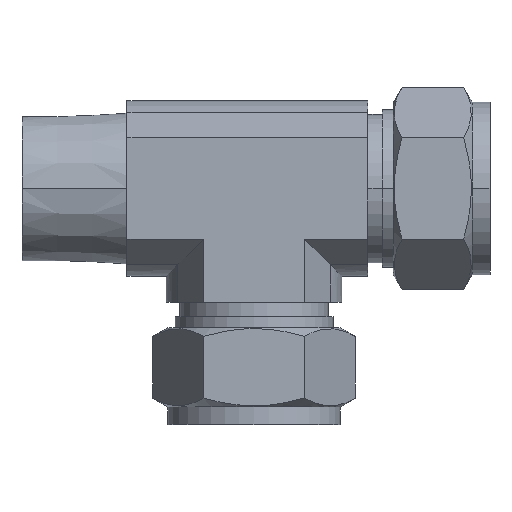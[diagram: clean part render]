
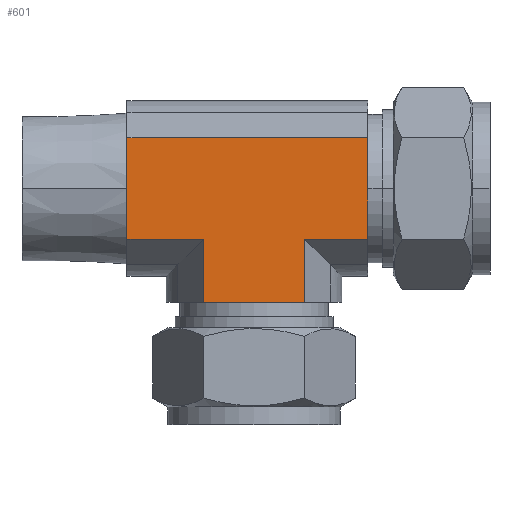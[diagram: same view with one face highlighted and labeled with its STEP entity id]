
A CAD part, top view. The second image highlights one B-rep face of the part: STEP entity #601.
In plain terms, the highlighted planar face has unit normal (0, 0, 1).
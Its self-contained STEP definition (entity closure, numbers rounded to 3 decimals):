
#132 = EDGE_LOOP ( 'NONE', ( #693, #691, #685, #537, #539, #495, #496, #497 ) ) ;
#446 = VERTEX_POINT ( 'NONE', #1947 ) ;
#448 = EDGE_CURVE ( 'NONE', #446, #449, #1946, .T. ) ;
#449 = VERTEX_POINT ( 'NONE', #1912 ) ;
#484 = VERTEX_POINT ( 'NONE', #2008 ) ;
#486 = EDGE_CURVE ( 'NONE', #484, #593, #2007, .T. ) ;
#495 = ORIENTED_EDGE ( 'NONE', *, *, #486, .F. ) ;
#496 = ORIENTED_EDGE ( 'NONE', *, *, #599, .T. ) ;
#497 = ORIENTED_EDGE ( 'NONE', *, *, #605, .F. ) ;
#524 = EDGE_CURVE ( 'NONE', #593, #639, #1938, .T. ) ;
#537 = ORIENTED_EDGE ( 'NONE', *, *, #538, .T. ) ;
#538 = EDGE_CURVE ( 'NONE', #446, #639, #1918, .T. ) ;
#539 = ORIENTED_EDGE ( 'NONE', *, *, #524, .F. ) ;
#593 = VERTEX_POINT ( 'NONE', #2090 ) ;
#599 = EDGE_CURVE ( 'NONE', #484, #606, #2144, .T. ) ;
#601 = ADVANCED_FACE ( 'NONE', ( #2140 ), #2139, .F. ) ;
#603 = VERTEX_POINT ( 'NONE', #2130 ) ;
#605 = EDGE_CURVE ( 'NONE', #603, #606, #2129, .T. ) ;
#606 = VERTEX_POINT ( 'NONE', #2125 ) ;
#639 = VERTEX_POINT ( 'NONE', #2040 ) ;
#660 = VERTEX_POINT ( 'NONE', #2164 ) ;
#663 = EDGE_CURVE ( 'NONE', #660, #603, #2158, .T. ) ;
#685 = ORIENTED_EDGE ( 'NONE', *, *, #448, .F. ) ;
#691 = ORIENTED_EDGE ( 'NONE', *, *, #692, .F. ) ;
#692 = EDGE_CURVE ( 'NONE', #449, #660, #2081, .T. ) ;
#693 = ORIENTED_EDGE ( 'NONE', *, *, #663, .F. ) ;
#1912 = CARTESIAN_POINT ( 'NONE',  ( -9.18, -20.6, 15.9 ) ) ;
#1913 = DIRECTION ( 'NONE',  ( -1., 0., 0. ) ) ;
#1915 = DIRECTION ( 'NONE',  ( 0., 1., 0. ) ) ;
#1916 = VECTOR ( 'NONE', #1915, 1000. ) ;
#1917 = CARTESIAN_POINT ( 'NONE',  ( 9.18, -20.6, 15.9 ) ) ;
#1918 = LINE ( 'NONE', #1917, #1916 ) ;
#1935 = DIRECTION ( 'NONE',  ( -1., 0., 0. ) ) ;
#1936 = VECTOR ( 'NONE', #1935, 1000. ) ;
#1937 = CARTESIAN_POINT ( 'NONE',  ( 20.6, -9.18, 15.9 ) ) ;
#1938 = LINE ( 'NONE', #1937, #1936 ) ;
#1944 = VECTOR ( 'NONE', #1913, 1000. ) ;
#1945 = CARTESIAN_POINT ( 'NONE',  ( 9.18, -20.6, 15.9 ) ) ;
#1946 = LINE ( 'NONE', #1945, #1944 ) ;
#1947 = CARTESIAN_POINT ( 'NONE',  ( 9.18, -20.6, 15.9 ) ) ;
#2004 = DIRECTION ( 'NONE',  ( 0., -1., 0. ) ) ;
#2005 = VECTOR ( 'NONE', #2004, 1000. ) ;
#2006 = CARTESIAN_POINT ( 'NONE',  ( 20.6, 9.18, 15.9 ) ) ;
#2007 = LINE ( 'NONE', #2006, #2005 ) ;
#2008 = CARTESIAN_POINT ( 'NONE',  ( 20.6, 9.18, 15.9 ) ) ;
#2040 = CARTESIAN_POINT ( 'NONE',  ( 9.18, -9.18, 15.9 ) ) ;
#2078 = DIRECTION ( 'NONE',  ( 0., 1., 0. ) ) ;
#2079 = VECTOR ( 'NONE', #2078, 1000. ) ;
#2080 = CARTESIAN_POINT ( 'NONE',  ( -9.18, -20.6, 15.9 ) ) ;
#2081 = LINE ( 'NONE', #2080, #2079 ) ;
#2090 = CARTESIAN_POINT ( 'NONE',  ( 20.6, -9.18, 15.9 ) ) ;
#2125 = CARTESIAN_POINT ( 'NONE',  ( -23., 9.18, 15.9 ) ) ;
#2126 = DIRECTION ( 'NONE',  ( 0., 1., 0. ) ) ;
#2127 = VECTOR ( 'NONE', #2126, 1000. ) ;
#2128 = CARTESIAN_POINT ( 'NONE',  ( -23., -9.18, 15.9 ) ) ;
#2129 = LINE ( 'NONE', #2128, #2127 ) ;
#2130 = CARTESIAN_POINT ( 'NONE',  ( -23., -9.18, 15.9 ) ) ;
#2134 = DIRECTION ( 'NONE',  ( 0., 1., 0. ) ) ;
#2135 = DIRECTION ( 'NONE',  ( 0., 0., -1. ) ) ;
#2136 = AXIS2_PLACEMENT_3D ( 'NONE', #2138, #2135, #2134 ) ;
#2138 = CARTESIAN_POINT ( 'NONE',  ( 20.6, 9.18, 15.9 ) ) ;
#2139 = PLANE ( 'NONE',  #2136 ) ;
#2140 = FACE_OUTER_BOUND ( 'NONE', #132, .T. ) ;
#2141 = DIRECTION ( 'NONE',  ( -1., 0., 0. ) ) ;
#2142 = VECTOR ( 'NONE', #2141, 1000. ) ;
#2143 = CARTESIAN_POINT ( 'NONE',  ( 20.6, 9.18, 15.9 ) ) ;
#2144 = LINE ( 'NONE', #2143, #2142 ) ;
#2155 = DIRECTION ( 'NONE',  ( -1., 0., 0. ) ) ;
#2156 = VECTOR ( 'NONE', #2155, 1000. ) ;
#2157 = CARTESIAN_POINT ( 'NONE',  ( 20.6, -9.18, 15.9 ) ) ;
#2158 = LINE ( 'NONE', #2157, #2156 ) ;
#2164 = CARTESIAN_POINT ( 'NONE',  ( -9.18, -9.18, 15.9 ) ) ;
